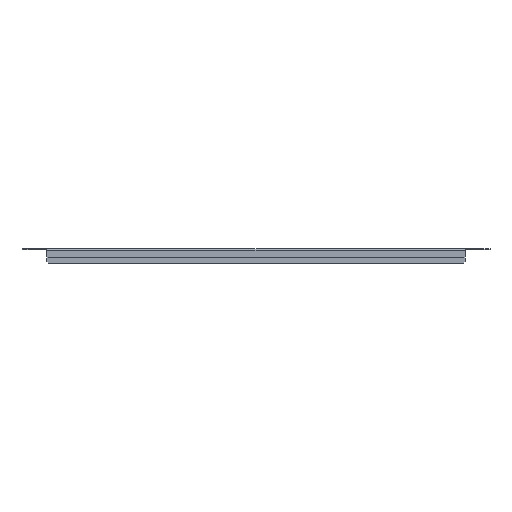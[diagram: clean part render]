
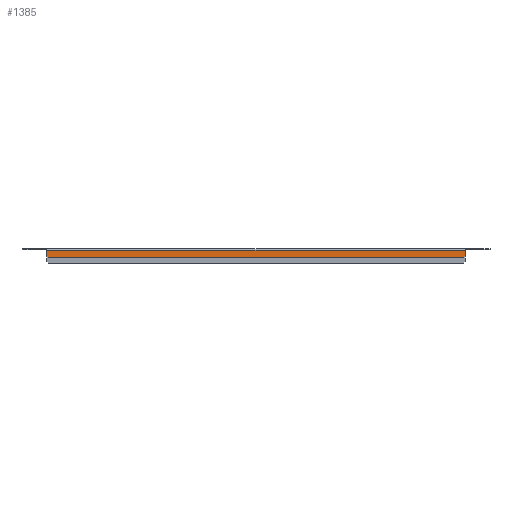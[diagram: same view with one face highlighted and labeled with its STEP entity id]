
A CAD part, front view. The second image highlights one B-rep face of the part: STEP entity #1385.
In plain terms, the highlighted planar face has unit normal (0, -1, 0).
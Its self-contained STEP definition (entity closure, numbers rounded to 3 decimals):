
#17 = EDGE_LOOP ( 'NONE', ( #258, #256, #257, #254, #255, #253 ) ) ;
#253 = ORIENTED_EDGE ( 'NONE', *, *, #1280, .T. ) ;
#254 = ORIENTED_EDGE ( 'NONE', *, *, #1270, .F. ) ;
#255 = ORIENTED_EDGE ( 'NONE', *, *, #1277, .F. ) ;
#256 = ORIENTED_EDGE ( 'NONE', *, *, #1278, .T. ) ;
#257 = ORIENTED_EDGE ( 'NONE', *, *, #1273, .F. ) ;
#258 = ORIENTED_EDGE ( 'NONE', *, *, #1279, .F. ) ;
#422 = VERTEX_POINT ( 'NONE', #510 ) ;
#424 = VERTEX_POINT ( 'NONE', #512 ) ;
#425 = VERTEX_POINT ( 'NONE', #513 ) ;
#428 = VERTEX_POINT ( 'NONE', #516 ) ;
#429 = VERTEX_POINT ( 'NONE', #517 ) ;
#430 = VERTEX_POINT ( 'NONE', #518 ) ;
#510 = CARTESIAN_POINT ( 'NONE',  ( 396.25, -99.5, -2.9 ) ) ;
#512 = CARTESIAN_POINT ( 'NONE',  ( -396.25, -99.5, -2.9 ) ) ;
#513 = CARTESIAN_POINT ( 'NONE',  ( 396.25, -99.5, -12.8 ) ) ;
#516 = CARTESIAN_POINT ( 'NONE',  ( -396.25, -99.5, -12.8 ) ) ;
#517 = CARTESIAN_POINT ( 'NONE',  ( 392.75, -99.5, -16.3 ) ) ;
#518 = CARTESIAN_POINT ( 'NONE',  ( -392.75, -99.5, -16.3 ) ) ;
#642 = LINE ( 'NONE', #643, #1475 ) ;
#643 = CARTESIAN_POINT ( 'NONE',  ( 396.25, -99.5, -2.9 ) ) ;
#644 = DIRECTION ( 'NONE',  ( 1., 0., 0. ) ) ;
#651 = LINE ( 'NONE', #652, #1478 ) ;
#652 = CARTESIAN_POINT ( 'NONE',  ( 396.25, -99.5, -1.4 ) ) ;
#653 = DIRECTION ( 'NONE',  ( 0., 0., -1. ) ) ;
#663 = LINE ( 'NONE', #664, #1527 ) ;
#664 = CARTESIAN_POINT ( 'NONE',  ( -396.25, -99.5, -27. ) ) ;
#665 = DIRECTION ( 'NONE',  ( 0., 0., 1. ) ) ;
#666 = LINE ( 'NONE', #667, #1526 ) ;
#667 = CARTESIAN_POINT ( 'NONE',  ( 396.25, -99.5, -12.8 ) ) ;
#668 = DIRECTION ( 'NONE',  ( 0.707, 0., 0.707 ) ) ;
#669 = LINE ( 'NONE', #670, #1530 ) ;
#670 = CARTESIAN_POINT ( 'NONE',  ( 396.25, -99.5, -16.3 ) ) ;
#671 = DIRECTION ( 'NONE',  ( -1., 0., 0. ) ) ;
#672 = LINE ( 'NONE', #673, #1519 ) ;
#673 = CARTESIAN_POINT ( 'NONE',  ( -392.75, -99.5, -16.3 ) ) ;
#674 = DIRECTION ( 'NONE',  ( 0.707, 0., -0.707 ) ) ;
#1001 = PLANE ( 'NONE',  #1534 ) ;
#1002 = CARTESIAN_POINT ( 'NONE',  ( 396.25, -99.5, -27. ) ) ;
#1003 = DIRECTION ( 'NONE',  ( 0., 1., 0. ) ) ;
#1004 = DIRECTION ( 'NONE',  ( 0., 0., 1. ) ) ;
#1270 = EDGE_CURVE ( 'NONE', #424, #422, #642, .T. ) ;
#1273 = EDGE_CURVE ( 'NONE', #422, #425, #651, .T. ) ;
#1277 = EDGE_CURVE ( 'NONE', #428, #424, #663, .T. ) ;
#1278 = EDGE_CURVE ( 'NONE', #429, #425, #666, .T. ) ;
#1279 = EDGE_CURVE ( 'NONE', #429, #430, #669, .T. ) ;
#1280 = EDGE_CURVE ( 'NONE', #428, #430, #672, .T. ) ;
#1385 = ADVANCED_FACE ( 'NONE', ( #1616 ), #1001, .F. ) ;
#1475 = VECTOR ( 'NONE', #644, 1000. ) ;
#1478 = VECTOR ( 'NONE', #653, 1000. ) ;
#1519 = VECTOR ( 'NONE', #674, 1000. ) ;
#1526 = VECTOR ( 'NONE', #668, 1000. ) ;
#1527 = VECTOR ( 'NONE', #665, 1000. ) ;
#1530 = VECTOR ( 'NONE', #671, 1000. ) ;
#1534 = AXIS2_PLACEMENT_3D ( 'NONE', #1002, #1003, #1004 ) ;
#1616 = FACE_OUTER_BOUND ( 'NONE', #17, .T. ) ;
